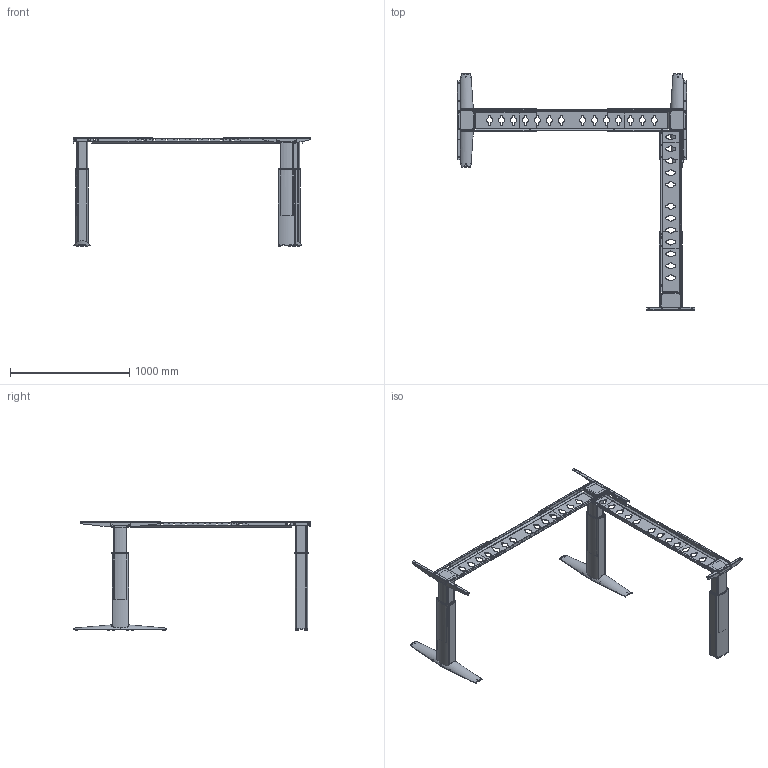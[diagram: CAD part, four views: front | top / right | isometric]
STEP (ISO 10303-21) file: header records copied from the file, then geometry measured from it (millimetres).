
FILE_DESCRIPTION (( 'STEP AP203' ), '1' );
FILE_NAME ('Tech-draw_501-23_XX192-192A_R.STEP', '2019-12-19T09:57:29', ( '' ), ( '' ), 'SwSTEP 2.0', 'SolidWorks 2018', '' );
FILE_SCHEMA (( 'CONFIG_CONTROL_DESIGN' ));
Length unit declared in the file: millimetre
Products named in the file (29): 313490; 600360; 350240; 350450; 313080; 350460; 111500_black; 311690_Shell view; 111360_shell view; 313100; 147930_3legR, 192-192; 311670; 312140; 312790; 304650; 150320_501-23 XB192-192A_R; 107860_black; 306980_black; Tech-draw_501-23_XX192-192A_R; 311630_shell view1; 311680; 108920_black1; 107870_black; 108910; 350470; 315460; 107880_Shell view; 311700_Shell view; 313070
Assembly tree (69 placements, depth 6):
  Tech-draw_501-23_XX192-192A_R
    150320_501-23 XB192-192A_R
      147930_3legR, 192-192
        350450  x2
        350460  x3
        350470
      111500_black  x3
        107870_black
          107860_black
            311670
            311680
        111360_shell view
          107880_Shell view
            311690_Shell view
            311700_Shell view
            311630_shell view1
          312140
          350240
        306980_black
        600360
      313490  x2
      108920_black1  x2
        108910
          313080
          313070  x2
          313100  x2
        312790
      312790  x8
      315460
      304650  x16
Bounding box: 1987.73 x 1979.92 x 910 mm (x, y, z)
Volume: 6622234.8 mm3; surface area: 6291685.8 mm2
Topology: 94 solids, 94 shells, 5003 faces, 12803 edges, 8226 vertices
Faces by surface type: plane 2827, cylinder 1363, bspline 465, torus 256, cone 68, sphere 24
Full cylindrical faces by diameter (mm): 2 x6, 4 x18, 4.3 x6, 4.5 x18, 5 x72, 5.3 x14, 6 x42, 6.3 x40, 6.5 x14, 7 x6, 7.5 x6, 9 x24, 10 x12
Entity records: 66398 total; most frequent: CARTESIAN_POINT 17351, ORIENTED_EDGE 9196, DIRECTION 9080, EDGE_CURVE 4598, AXIS2_PLACEMENT_3D 3067, VERTEX_POINT 3049, VECTOR 2946, LINE 2946
